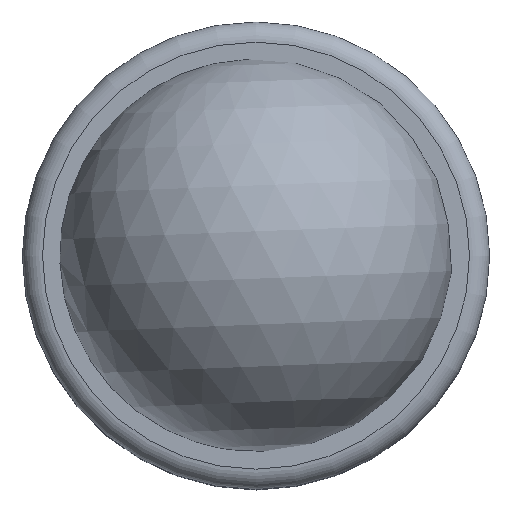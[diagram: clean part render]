
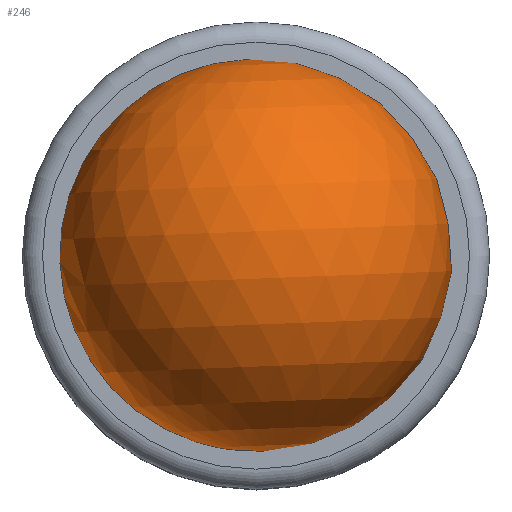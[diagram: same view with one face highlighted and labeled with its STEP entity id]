
A CAD part, top view. The second image highlights one B-rep face of the part: STEP entity #246.
In plain terms, the highlighted spherical face has radius 34 mm.
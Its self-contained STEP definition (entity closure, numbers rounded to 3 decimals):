
#23=SPHERICAL_SURFACE('',#368,34.);
#42=FACE_BOUND('',#90,.T.);
#68=FACE_OUTER_BOUND('',#89,.T.);
#89=EDGE_LOOP('',(#222,#223));
#90=EDGE_LOOP('',(#224));
#123=CIRCLE('',#367,16.142);
#124=CIRCLE('',#369,34.);
#141=VERTEX_POINT('',#529);
#142=VERTEX_POINT('',#532);
#143=VERTEX_POINT('',#533);
#169=EDGE_CURVE('',#141,#141,#123,.T.);
#170=EDGE_CURVE('',#142,#143,#124,.T.);
#222=ORIENTED_EDGE('',*,*,#170,.T.);
#223=ORIENTED_EDGE('',*,*,#170,.F.);
#224=ORIENTED_EDGE('',*,*,#169,.T.);
#246=ADVANCED_FACE('',(#68,#42),#23,.T.);
#367=AXIS2_PLACEMENT_3D('',#530,#456,#457);
#368=AXIS2_PLACEMENT_3D('',#531,#458,#459);
#369=AXIS2_PLACEMENT_3D('',#534,#460,#461);
#456=DIRECTION('center_axis',(0.,-1.,0.));
#457=DIRECTION('ref_axis',(1.,0.,0.));
#458=DIRECTION('center_axis',(0.,0.,1.));
#459=DIRECTION('ref_axis',(1.,0.,0.));
#460=DIRECTION('center_axis',(0.,-1.,0.));
#461=DIRECTION('ref_axis',(-1.,0.,0.));
#529=CARTESIAN_POINT('',(16.142,29.924,0.));
#530=CARTESIAN_POINT('Origin',(0.,29.924,0.));
#531=CARTESIAN_POINT('Origin',(0.,0.,0.));
#532=CARTESIAN_POINT('',(0.,0.,34.));
#533=CARTESIAN_POINT('',(0.,0.,-34.));
#534=CARTESIAN_POINT('Origin',(0.,0.,0.));
